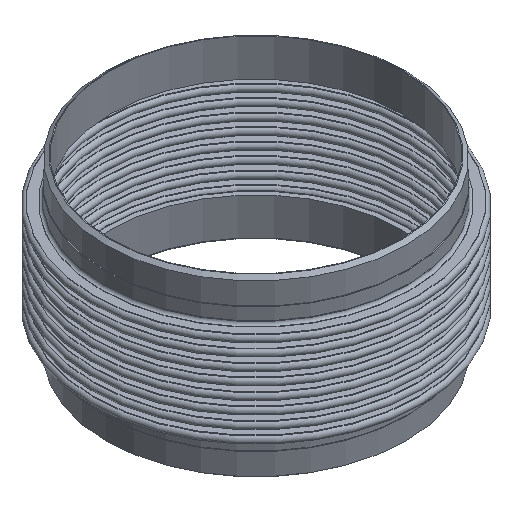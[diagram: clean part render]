
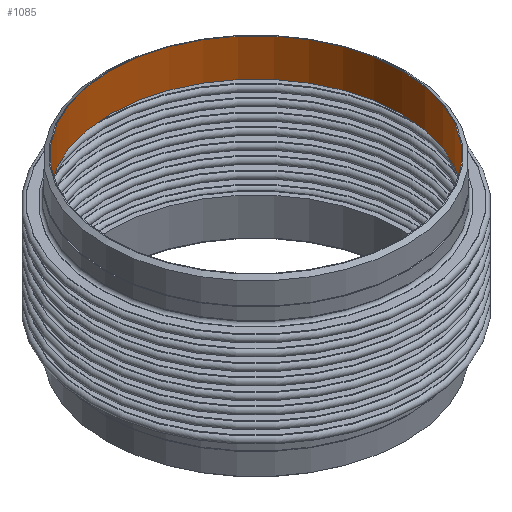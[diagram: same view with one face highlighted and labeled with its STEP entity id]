
A CAD part, isometric view. The second image highlights one B-rep face of the part: STEP entity #1085.
In plain terms, the highlighted cylindrical face has radius 295.275 mm (diameter 590.55 mm), a full revolution.
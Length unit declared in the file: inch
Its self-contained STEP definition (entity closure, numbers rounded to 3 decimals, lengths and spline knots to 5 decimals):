
#57=LINE('',#2002,#65);
#65=VECTOR('',#1710,11.625);
#71=CYLINDRICAL_SURFACE('',#1304,11.625);
#188=FACE_OUTER_BOUND('',#305,.T.);
#305=EDGE_LOOP('',(#882,#883,#884,#885));
#424=CIRCLE('',#1303,11.625);
#425=CIRCLE('',#1305,11.625);
#508=VERTEX_POINT('',#1997);
#509=VERTEX_POINT('',#2000);
#633=EDGE_CURVE('',#508,#508,#424,.T.);
#634=EDGE_CURVE('',#509,#509,#425,.T.);
#635=EDGE_CURVE('',#509,#508,#57,.T.);
#882=ORIENTED_EDGE('',*,*,#634,.F.);
#883=ORIENTED_EDGE('',*,*,#635,.T.);
#884=ORIENTED_EDGE('',*,*,#633,.F.);
#885=ORIENTED_EDGE('',*,*,#635,.F.);
#1085=ADVANCED_FACE('',(#188),#71,.F.);
#1303=AXIS2_PLACEMENT_3D('',#1998,#1704,#1705);
#1304=AXIS2_PLACEMENT_3D('',#1999,#1706,#1707);
#1305=AXIS2_PLACEMENT_3D('',#2001,#1708,#1709);
#1704=DIRECTION('center_axis',(0.,0.,-1.));
#1705=DIRECTION('ref_axis',(-1.,0.,0.));
#1706=DIRECTION('center_axis',(0.,0.,1.));
#1707=DIRECTION('ref_axis',(-1.,0.,0.));
#1708=DIRECTION('center_axis',(0.,0.,1.));
#1709=DIRECTION('ref_axis',(-1.,0.,0.));
#1710=DIRECTION('',(0.,0.,1.));
#1997=CARTESIAN_POINT('',(11.625,0.,1.5));
#1998=CARTESIAN_POINT('Origin',(0.,0.,1.5));
#1999=CARTESIAN_POINT('Origin',(0.,0.,0.));
#2000=CARTESIAN_POINT('',(11.625,0.,-1.5));
#2001=CARTESIAN_POINT('Origin',(0.,0.,-1.5));
#2002=CARTESIAN_POINT('',(11.625,0.,0.));
